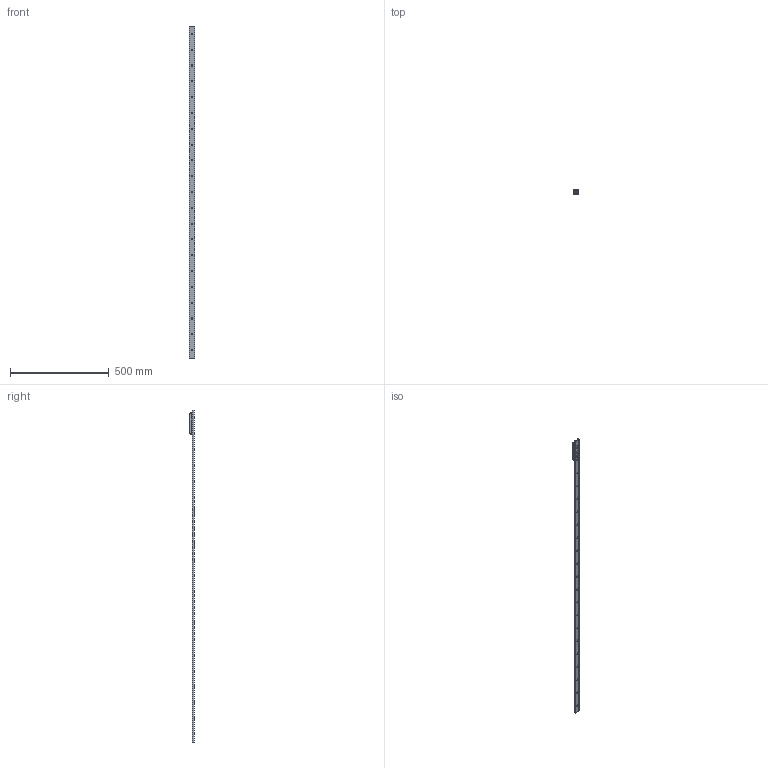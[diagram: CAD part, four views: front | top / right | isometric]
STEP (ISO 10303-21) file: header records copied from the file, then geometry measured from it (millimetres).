
FILE_DESCRIPTION( ( 'STEP AP214' ), '1' );
FILE_NAME( 'p:/temp/worker_24/temp/exporttempdir_5160_97_B5c9W/format_2/TGV-01680_1_RV28G-3.stp', '2020-11-20T16:36:49', ( 'License CC BY-ND 4.0' ), ( 'CADENAS' ), ' ', 'PARTsolutions', ' ' );
FILE_SCHEMA( ( 'AUTOMOTIVE_DESIGN { 1 0 10303 214 1 1 1 1 }' ) );
Length unit declared in the file: millimetre
Products named in the file (6): TGV-01680/1/RV28G-3; _TGV28-1680-(3-1); _RV28G-3-slider; _RGNV28R; _RGAV28R; _WR28G-01
Assembly tree (7 placements, depth 2):
  TGV-01680/1/RV28G-3
    _TGV28-1680-(3-1)
    _RV28G-3-slider
    _RGNV28R  x2
    _RGAV28R
    _WR28G-01  x2
Bounding box: 28 x 24 x 1680 mm (x, y, z)
Volume: 279051.3 mm3; surface area: 178217.2 mm2
Topology: 7 solids, 7 shells, 1054 faces, 2750 edges, 1792 vertices
Faces by surface type: plane 657, cylinder 301, cone 61, bspline 26, torus 9
Full cylindrical faces by diameter (mm): 1.27 x4, 2 x2, 2.5 x6, 4 x4, 4.134 x4, 4.2 x3, 5 x3, 5.5 x3, 5.75 x21, 7 x5, 7.5 x1, 8 x6, 10.8 x3, 17 x3, 20.75 x6
Entity records: 25521 total; most frequent: CARTESIAN_POINT 4043, DIRECTION 3410, ORIENTED_EDGE 3120, EDGE_CURVE 1560, AXIS2_PLACEMENT_3D 1310, VERTEX_POINT 1092, EDGE_LOOP 917, LINE 790
